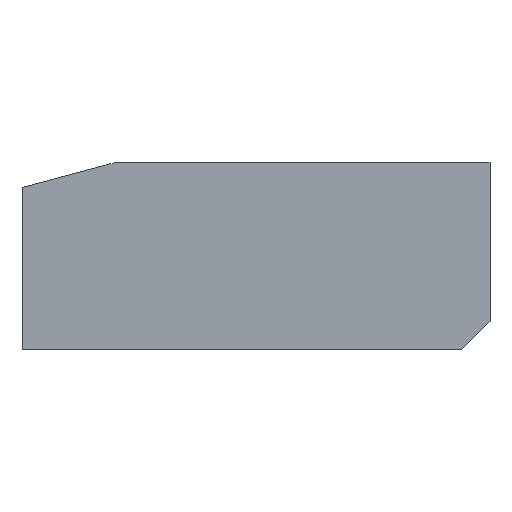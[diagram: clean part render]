
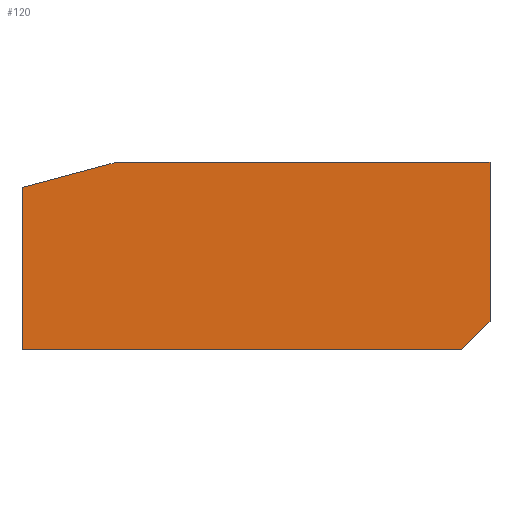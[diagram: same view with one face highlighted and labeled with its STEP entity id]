
A CAD part, front view. The second image highlights one B-rep face of the part: STEP entity #120.
In plain terms, the highlighted planar face has unit normal (0, -1, 0).
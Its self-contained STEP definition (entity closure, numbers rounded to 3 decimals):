
#13 = VECTOR ( 'NONE', #433, 1000. ) ;
#26 = VERTEX_POINT ( 'NONE', #584 ) ;
#28 = VERTEX_POINT ( 'NONE', #404 ) ;
#30 = CARTESIAN_POINT ( 'NONE',  ( -50., 0., 17.321 ) ) ;
#47 = DIRECTION ( 'NONE',  ( -1., 0., 0. ) ) ;
#51 = AXIS2_PLACEMENT_3D ( 'NONE', #540, #222, #380 ) ;
#63 = CARTESIAN_POINT ( 'NONE',  ( -19.671, 0., 20. ) ) ;
#64 = ORIENTED_EDGE ( 'NONE', *, *, #402, .T. ) ;
#67 = VECTOR ( 'NONE', #355, 1000. ) ;
#72 = DIRECTION ( 'NONE',  ( 0.966, 0., 0.259 ) ) ;
#92 = ORIENTED_EDGE ( 'NONE', *, *, #369, .F. ) ;
#99 = VERTEX_POINT ( 'NONE', #591 ) ;
#115 = VERTEX_POINT ( 'NONE', #30 ) ;
#120 = ADVANCED_FACE ( 'NONE', ( #428 ), #125, .T. ) ;
#125 = PLANE ( 'NONE',  #51 ) ;
#132 = EDGE_CURVE ( 'NONE', #99, #305, #270, .T. ) ;
#136 = ORIENTED_EDGE ( 'NONE', *, *, #228, .F. ) ;
#137 = VECTOR ( 'NONE', #47, 1000. ) ;
#138 = CARTESIAN_POINT ( 'NONE',  ( -45., 0., 18.66 ) ) ;
#144 = VERTEX_POINT ( 'NONE', #245 ) ;
#149 = LINE ( 'NONE', #63, #137 ) ;
#182 = CARTESIAN_POINT ( 'NONE',  ( 0., 0., 11.5 ) ) ;
#184 = EDGE_LOOP ( 'NONE', ( #509, #545, #424, #136, #64, #92, #323 ) ) ;
#210 = DIRECTION ( 'NONE',  ( 0., 0., -1. ) ) ;
#222 = DIRECTION ( 'NONE',  ( 0., -1., 0. ) ) ;
#228 = EDGE_CURVE ( 'NONE', #115, #144, #468, .T. ) ;
#239 = AXIS2_PLACEMENT_3D ( 'NONE', #429, #426, #423 ) ;
#243 = CARTESIAN_POINT ( 'NONE',  ( -1.5, 0., 1.5 ) ) ;
#245 = CARTESIAN_POINT ( 'NONE',  ( -40.636, 0., 19.83 ) ) ;
#260 = EDGE_CURVE ( 'NONE', #28, #26, #149, .T. ) ;
#270 = LINE ( 'NONE', #243, #475 ) ;
#272 = CARTESIAN_POINT ( 'NONE',  ( -26.5, 0., 0. ) ) ;
#279 = EDGE_CURVE ( 'NONE', #28, #99, #473, .T. ) ;
#295 = DIRECTION ( 'NONE',  ( -0.707, 0., -0.707 ) ) ;
#305 = VERTEX_POINT ( 'NONE', #474 ) ;
#323 = ORIENTED_EDGE ( 'NONE', *, *, #132, .F. ) ;
#339 = EDGE_CURVE ( 'NONE', #144, #26, #558, .T. ) ;
#344 = CARTESIAN_POINT ( 'NONE',  ( -50., 0., 8.66 ) ) ;
#355 = DIRECTION ( 'NONE',  ( 0., 0., -1. ) ) ;
#369 = EDGE_CURVE ( 'NONE', #305, #472, #441, .T. ) ;
#379 = VECTOR ( 'NONE', #72, 1000. ) ;
#380 = DIRECTION ( 'NONE',  ( 0., 0., -1. ) ) ;
#388 = CARTESIAN_POINT ( 'NONE',  ( -50., 0., 0. ) ) ;
#402 = EDGE_CURVE ( 'NONE', #115, #472, #557, .T. ) ;
#404 = CARTESIAN_POINT ( 'NONE',  ( 0., 0., 20. ) ) ;
#413 = VECTOR ( 'NONE', #210, 1000. ) ;
#423 = DIRECTION ( 'NONE',  ( 1., 0., 0. ) ) ;
#424 = ORIENTED_EDGE ( 'NONE', *, *, #339, .F. ) ;
#426 = DIRECTION ( 'NONE',  ( 0., 1., 0. ) ) ;
#428 = FACE_OUTER_BOUND ( 'NONE', #184, .T. ) ;
#429 = CARTESIAN_POINT ( 'NONE',  ( -39.342, 0., 15. ) ) ;
#433 = DIRECTION ( 'NONE',  ( -1., 0., 0. ) ) ;
#441 = LINE ( 'NONE', #272, #13 ) ;
#468 = LINE ( 'NONE', #138, #379 ) ;
#472 = VERTEX_POINT ( 'NONE', #388 ) ;
#473 = LINE ( 'NONE', #182, #413 ) ;
#474 = CARTESIAN_POINT ( 'NONE',  ( -3., 0., 0. ) ) ;
#475 = VECTOR ( 'NONE', #295, 1000. ) ;
#509 = ORIENTED_EDGE ( 'NONE', *, *, #279, .F. ) ;
#540 = CARTESIAN_POINT ( 'NONE',  ( 0., 0., 0. ) ) ;
#545 = ORIENTED_EDGE ( 'NONE', *, *, #260, .T. ) ;
#557 = LINE ( 'NONE', #344, #67 ) ;
#558 = CIRCLE ( 'NONE', #239, 5. ) ;
#584 = CARTESIAN_POINT ( 'NONE',  ( -39.342, 0., 20. ) ) ;
#591 = CARTESIAN_POINT ( 'NONE',  ( 0., 0., 3. ) ) ;
